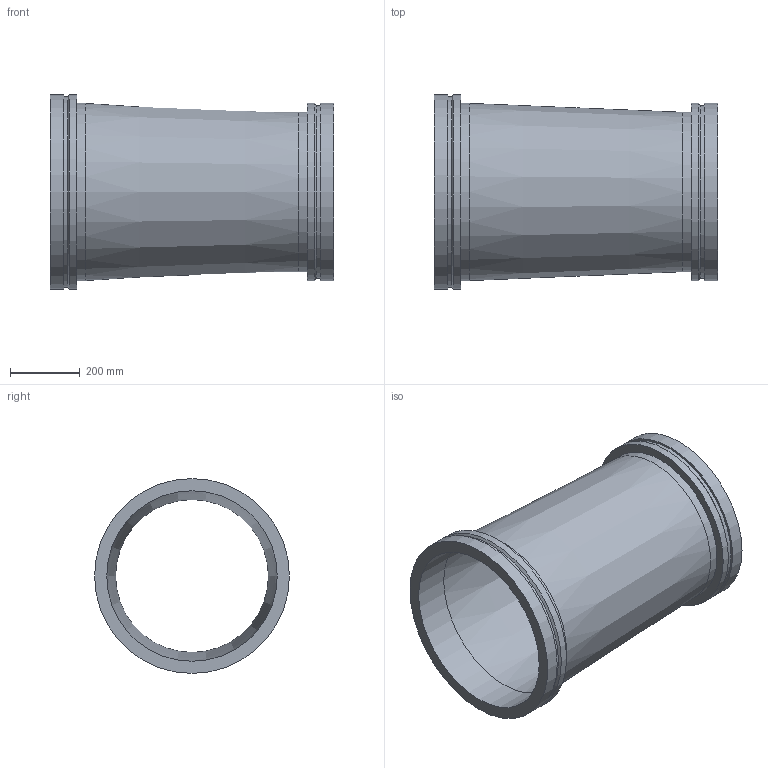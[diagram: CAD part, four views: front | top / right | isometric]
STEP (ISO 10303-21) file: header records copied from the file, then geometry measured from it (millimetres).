
FILE_DESCRIPTION(/* description */ ('VIC REDUCER CONCENTRIC No W50 VR','CAx-IF Rec.Pracs.---Representation and Presentation of Product Manufacturing Information (PMI)---4.0---2014-10-13'),/* implementation_level */ '2;1');
FILE_NAME(/* name */ 'C:\Users\kkamble\AppData\Roaming\Autodesk\ApplicationPlugins\Back Up\Victaulic_Vic-Ring_Reducer Concentric_No W50 VR (AGR)\Victaulic_Vic-Ring_Reducer Concentric_No W50 VR (AGR)_20.0x18.0 (500x450).stp',/* time_stamp */ '2020-09-10T11:45:36+05:00',/* author */ ('cps_temp'),/* organization */ ('Victaulic'),/* preprocessor_version */ 'ST-DEVELOPER v17.2',/* originating_system */ 'Autodesk Inventor 2019',/* authorisation */ '');
FILE_SCHEMA (('AP242_MANAGED_MODEL_BASED_3D_ENGINEERING_MIM_LF { 1 0 10303 442 1 1 4 }'));
Length unit declared in the file: inch
Products named in the file (1): W50 VR-20.0x18.0
Bounding box: 812.8 x 558.8 x 558.8 mm (x, y, z)
Volume: 17384616.1 mm3; surface area: 2662033.4 mm2
Topology: 1 solids, 1 shells, 20 faces, 54 edges, 40 vertices
Faces by surface type: cylinder 10, plane 6, cone 4
Full cylindrical faces by diameter (mm): 438.15 x1, 457.2 x1, 488.95 x1, 495.3 x1, 508 x3, 546.1 x1, 558.8 x2
Entity records: 830 total; most frequent: DIRECTION 162, CARTESIAN_POINT 132, ORIENTED_EDGE 108, AXIS2_PLACEMENT_3D 74, EDGE_CURVE 54, CIRCLE 40, VERTEX_POINT 40, EDGE_LOOP 26
